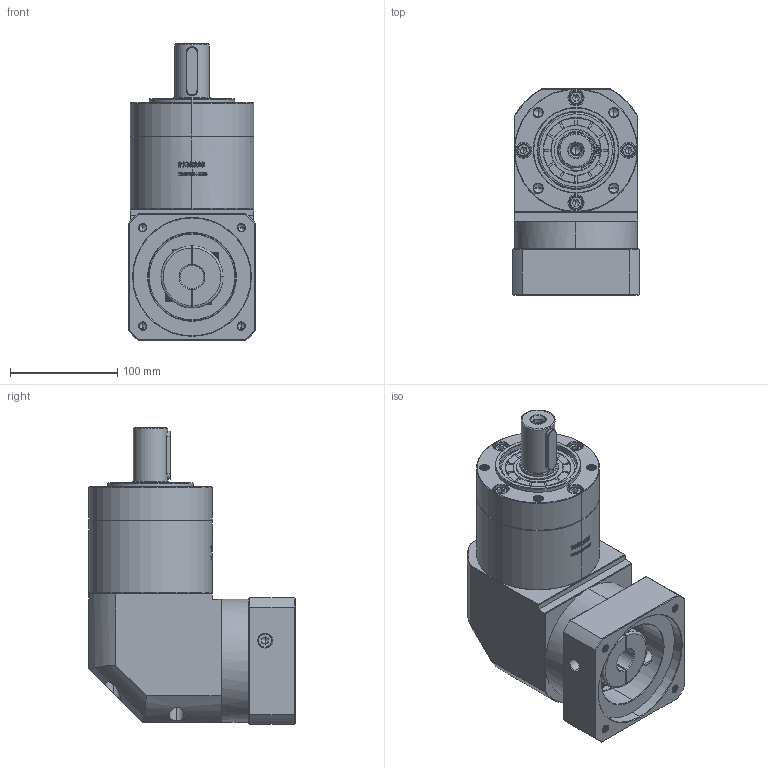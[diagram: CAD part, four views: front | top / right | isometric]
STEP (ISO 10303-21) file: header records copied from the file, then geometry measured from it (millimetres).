
FILE_DESCRIPTION (( 'STEP AP214' ), '1' );
FILE_NAME ('ZER120A-D32-L2-22-110-130-M8.step', '2023-03-14T08:22:16', ( '' ), ( '' ), 'SwSTEP 2.0', 'SolidWorks 2016', '' );
FILE_SCHEMA (( 'AUTOMOTIVE_DESIGN' ));
Length unit declared in the file: millimetre
Products named in the file (1): ZER120A-D32-L2-22-110-130-M8
Bounding box: 118 x 192.4 x 276.5 mm (x, y, z)
Volume: 3124345.6 mm3; surface area: 250753.9 mm2
Topology: 6 solids, 6 shells, 2955 faces, 7918 edges, 5107 vertices
Faces by surface type: plane 1463, bspline 619, cylinder 532, cone 333, torus 8
Entity records: 169525 total; most frequent: CARTESIAN_POINT 69836, ORIENTED_EDGE 15760, DIRECTION 11234, EDGE_CURVE 7880, VERTEX_POINT 5107, LINE 4802, VECTOR 4802, AXIS2_PLACEMENT_3D 3216
